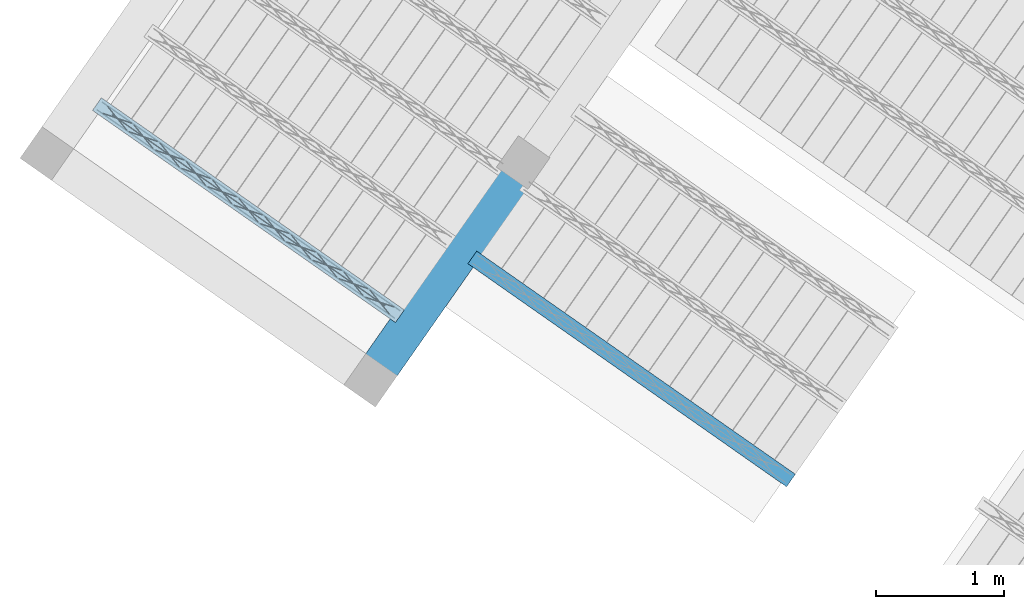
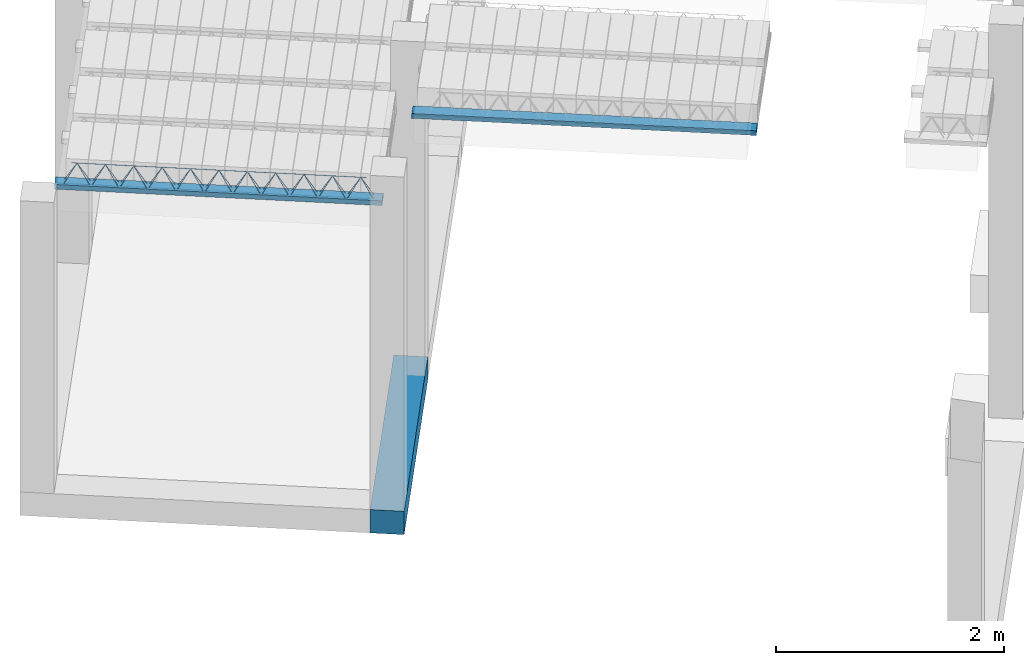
# One storey, part 3 of 80: 3 beams.
"""IFC2X3 building model written with IfcOpenShell, lengths in metres."""

from ifc_helpers import new_model, entity, si_unit, converted_unit, derived_unit, direction, frame, frame_2d, origin, origin_2d_with_axis, place, context, subcontext, project, spatial, rectangle, circle, extrude, material, type_object, element, save


model = new_model("IFC2X3")

# Units and contexts
model_context = context("Model", 3, precision=1e-05, world=origin(), true_north=direction((6.123031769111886e-17, 1.0)))
body_context = subcontext(model_context, "Body", "Model", "MODEL_VIEW")
ifc_project = project(units=[si_unit("LENGTHUNIT", "METRE"), si_unit("AREAUNIT", "SQUARE_METRE"), si_unit("VOLUMEUNIT", "CUBIC_METRE"), converted_unit("PLANEANGLEUNIT", "DEGREE", entity("IfcPlaneAngleMeasure", 0.017453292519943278), si_unit("PLANEANGLEUNIT", "RADIAN"), dimensions=[0, 0, 0, 0, 0, 0, 0]), si_unit("MASSUNIT", "GRAM", prefix="KILO"), derived_unit("MASSDENSITYUNIT", [(si_unit("MASSUNIT", "GRAM", prefix="KILO"), 1), (si_unit("LENGTHUNIT", "METRE"), -3)]), derived_unit("IONCONCENTRATIONUNIT", [(si_unit("MASSUNIT", "GRAM", prefix="KILO"), 1), (si_unit("LENGTHUNIT", "METRE"), -3)]), derived_unit("MOMENTOFINERTIAUNIT", [(si_unit("LENGTHUNIT", "METRE"), 4)]), si_unit("TIMEUNIT", "SECOND"), si_unit("FREQUENCYUNIT", "HERTZ"), si_unit("THERMODYNAMICTEMPERATUREUNIT", "DEGREE_CELSIUS"), derived_unit("THERMALTRANSMITTANCEUNIT", [(si_unit("MASSUNIT", "GRAM", prefix="KILO"), 1), (si_unit("THERMODYNAMICTEMPERATUREUNIT", "KELVIN"), -1), (si_unit("TIMEUNIT", "SECOND"), -3)]), derived_unit("THERMALCONDUCTANCEUNIT", [(si_unit("MASSUNIT", "GRAM", prefix="KILO"), 1), (si_unit("THERMODYNAMICTEMPERATUREUNIT", "KELVIN"), -1), (si_unit("TIMEUNIT", "SECOND"), -3), (si_unit("LENGTHUNIT", "METRE"), 1)]), derived_unit("VOLUMETRICFLOWRATEUNIT", [(si_unit("LENGTHUNIT", "METRE", prefix="DECI"), 3), (si_unit("TIMEUNIT", "SECOND"), -1)]), derived_unit("MASSFLOWRATEUNIT", [(si_unit("MASSUNIT", "GRAM", prefix="KILO"), 1), (si_unit("TIMEUNIT", "SECOND"), -1)]), derived_unit("ROTATIONALFREQUENCYUNIT", [(si_unit("TIMEUNIT", "SECOND"), -1)]), si_unit("ELECTRICCURRENTUNIT", "AMPERE"), si_unit("ELECTRICVOLTAGEUNIT", "VOLT"), si_unit("POWERUNIT", "WATT"), si_unit("FORCEUNIT", "NEWTON", prefix="KILO"), si_unit("ILLUMINANCEUNIT", "LUX"), si_unit("LUMINOUSFLUXUNIT", "LUMEN"), si_unit("LUMINOUSINTENSITYUNIT", "CANDELA"), si_unit("ENERGYUNIT", "JOULE"), derived_unit("USERDEFINED", [(si_unit("MASSUNIT", "GRAM", prefix="KILO"), -1), (si_unit("LENGTHUNIT", "METRE"), -2), (si_unit("TIMEUNIT", "SECOND"), 3), (si_unit("LUMINOUSFLUXUNIT", "LUMEN"), 1)]), derived_unit("USERDEFINED", [(si_unit("MASSUNIT", "GRAM", prefix="KILO"), 1), (si_unit("TIMEUNIT", "SECOND"), -3), (si_unit("LENGTHUNIT", "METRE"), 3), (si_unit("ELECTRICCURRENTUNIT", "AMPERE"), -2)]), derived_unit("SOUNDPOWERUNIT", [(si_unit("MASSUNIT", "GRAM", prefix="KILO"), 1), (si_unit("TIMEUNIT", "SECOND"), -3), (si_unit("LENGTHUNIT", "METRE"), 2)]), derived_unit("SOUNDPRESSUREUNIT", [(si_unit("MASSUNIT", "GRAM", prefix="KILO"), 1), (si_unit("LENGTHUNIT", "METRE"), -1), (si_unit("TIMEUNIT", "SECOND"), -2)]), derived_unit("LINEARVELOCITYUNIT", [(si_unit("LENGTHUNIT", "METRE"), 1), (si_unit("TIMEUNIT", "SECOND"), -1)]), si_unit("PRESSUREUNIT", "PASCAL"), derived_unit("USERDEFINED", [(si_unit("MASSUNIT", "GRAM", prefix="KILO"), 1), (si_unit("LENGTHUNIT", "METRE"), -2), (si_unit("TIMEUNIT", "SECOND"), -2)]), derived_unit("LINEARFORCEUNIT", [(si_unit("MASSUNIT", "GRAM", prefix="KILO"), 1), (si_unit("TIMEUNIT", "SECOND"), -2)]), derived_unit("PLANARFORCEUNIT", [(si_unit("MASSUNIT", "GRAM", prefix="KILO"), 1), (si_unit("LENGTHUNIT", "METRE"), -1), (si_unit("TIMEUNIT", "SECOND"), -2)]), derived_unit("SPECIFICHEATCAPACITYUNIT", [(si_unit("THERMODYNAMICTEMPERATUREUNIT", "KELVIN"), -1), (si_unit("LENGTHUNIT", "METRE"), 2), (si_unit("TIMEUNIT", "SECOND"), -2)]), derived_unit("HEATFLUXDENSITYUNIT", [(si_unit("MASSUNIT", "GRAM", prefix="KILO"), 1), (si_unit("TIMEUNIT", "SECOND"), -3)]), derived_unit("HEATINGVALUEUNIT", [(si_unit("LENGTHUNIT", "METRE"), 2), (si_unit("TIMEUNIT", "SECOND"), -2)]), derived_unit("VAPORPERMEABILITYUNIT", [(si_unit("LENGTHUNIT", "METRE"), -1), (si_unit("TIMEUNIT", "SECOND"), 1)]), derived_unit("DYNAMICVISCOSITYUNIT", [(si_unit("MASSUNIT", "GRAM", prefix="KILO"), 1), (si_unit("TIMEUNIT", "SECOND"), -1), (si_unit("LENGTHUNIT", "METRE"), -1)]), derived_unit("THERMALEXPANSIONCOEFFICIENTUNIT", [(si_unit("THERMODYNAMICTEMPERATUREUNIT", "KELVIN"), -1)]), derived_unit("MODULUSOFELASTICITYUNIT", [(si_unit("MASSUNIT", "GRAM", prefix="KILO"), 1), (si_unit("LENGTHUNIT", "METRE"), -1), (si_unit("TIMEUNIT", "SECOND"), -2)]), derived_unit("ISOTHERMALMOISTURECAPACITYUNIT", [(si_unit("MASSUNIT", "GRAM", prefix="KILO"), -1), (si_unit("LENGTHUNIT", "METRE"), 3)]), derived_unit("MOISTUREDIFFUSIVITYUNIT", [(si_unit("TIMEUNIT", "SECOND"), -1), (si_unit("LENGTHUNIT", "METRE"), 2)]), derived_unit("MASSPERLENGTHUNIT", [(si_unit("MASSUNIT", "GRAM", prefix="KILO"), 1), (si_unit("LENGTHUNIT", "METRE"), -1)]), derived_unit("THERMALRESISTANCEUNIT", [(si_unit("MASSUNIT", "GRAM", prefix="KILO"), -1), (si_unit("TIMEUNIT", "SECOND"), 3), (si_unit("THERMODYNAMICTEMPERATUREUNIT", "KELVIN"), 1)]), derived_unit("ACCELERATIONUNIT", [(si_unit("LENGTHUNIT", "METRE"), 1), (si_unit("TIMEUNIT", "SECOND"), -2)]), derived_unit("ANGULARVELOCITYUNIT", [(si_unit("TIMEUNIT", "SECOND"), -1), (si_unit("PLANEANGLEUNIT", "RADIAN"), 1)]), derived_unit("LINEARSTIFFNESSUNIT", [(si_unit("MASSUNIT", "GRAM", prefix="KILO"), 1), (si_unit("TIMEUNIT", "SECOND"), -2)]), derived_unit("WARPINGCONSTANTUNIT", [(si_unit("LENGTHUNIT", "METRE"), 6)]), derived_unit("LINEARMOMENTUNIT", [(si_unit("MASSUNIT", "GRAM", prefix="KILO"), 1), (si_unit("LENGTHUNIT", "METRE"), 1), (si_unit("TIMEUNIT", "SECOND"), -2)]), derived_unit("TORQUEUNIT", [(si_unit("MASSUNIT", "GRAM", prefix="KILO"), 1), (si_unit("LENGTHUNIT", "METRE"), 2), (si_unit("TIMEUNIT", "SECOND"), -2)])], contexts=[model_context])

# Site, building, storey
site_placement = place(None, origin())
site = spatial("IfcSite", under=ifc_project, at=site_placement, Name="Default", CompositionType="ELEMENT")
building_placement = place(site_placement, origin())
building = spatial("IfcBuilding", under=site, at=building_placement, CompositionType="ELEMENT")
storey_placement = place(building_placement, frame((0.0, 0.0, 95.94)))
storey = spatial("IfcBuildingStorey", under=building, at=storey_placement, Name="PB", CompositionType="ELEMENT", Elevation=95.94)

# Beams
beam_type = type_object("IfcBeamType", Name="Vigueta 1 (Paño 2) (Mf = 10.75)", PredefinedType="JOIST")
beam_1_placement = place(storey_placement, origin())
element("IfcBeam", 1, at=beam_1_placement, inside=storey, type_object=beam_type, Name="Vigueta 1 (Paño 2) (Mf = 10.75)", ObjectType="Mf = 10.75", context=body_context, shape_type="SweptSolid", body=[
    extrude(rectangle(XDim=2.8847793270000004, YDim=0.12000000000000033, at=frame_2d((0.0, -6.938893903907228e-17), x_axis=(1.0, 0.0))), frame((0.0012735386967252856, 1.891653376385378, 2.82), z_axis=(0.0, 0.0, 1.0), x_axis=(0.8191520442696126, -0.5735764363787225, 0.0)), (0.0, 0.0, 1.0), 0.04999999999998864),
    extrude(circle(Radius=0.0025, at=origin_2d_with_axis()), frame((-1.1812520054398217, 2.675718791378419, 2.8449999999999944), z_axis=(0.8191520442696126, -0.5735764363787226, 0.0), x_axis=(-0.5735764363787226, -0.8191520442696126, 0.0)), (0.0, 0.0, 1.0), 2.8367793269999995),
    extrude(circle(Radius=0.0025, at=origin_2d_with_axis()), frame((1.0661711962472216, 1.1460040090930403, 3.069999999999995), z_axis=(-0.8191520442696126, 0.5735764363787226, 0.0), x_axis=(-0.5735764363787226, -0.8191520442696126, 0.0)), (0.0, 0.0, 1.0), 2.6),
    extrude(circle(Radius=0.0025, at=origin_2d_with_axis()), frame((1.1069588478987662, 1.0734963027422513, 2.8449999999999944), z_axis=(-0.3145304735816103, 0.389334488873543, 0.8657304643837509), x_axis=(-0.7778747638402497, -0.6284193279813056, 0.0)), (0.0, 0.0, 1.0), 0.2598961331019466),
    extrude(circle(Radius=0.0025, at=origin_2d_with_axis()), frame((0.9021708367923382, 1.216890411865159, 2.8449999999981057), z_axis=(0.47343050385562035, -0.1624017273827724, 0.8657304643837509), x_axis=(-0.3244721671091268, -0.9458952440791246, 0.0)), (0.0, 0.0, 1.0), 0.25989613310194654),
    extrude(circle(Radius=0.0025, at=origin_2d_with_axis()), frame((0.9021708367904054, 1.2168904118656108, 2.8449999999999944), z_axis=(-0.3145304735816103, 0.389334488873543, 0.8657304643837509), x_axis=(-0.7778747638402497, -0.6284193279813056, 0.0)), (0.0, 0.0, 1.0), 0.2598961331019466),
    extrude(circle(Radius=0.0025, at=origin_2d_with_axis()), frame((0.697382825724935, 1.3602845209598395, 2.8449999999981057), z_axis=(0.47343050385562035, -0.1624017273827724, 0.8657304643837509), x_axis=(-0.3244721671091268, -0.9458952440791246, 0.0)), (0.0, 0.0, 1.0), 0.25989613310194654),
    extrude(circle(Radius=0.0025, at=origin_2d_with_axis()), frame((0.6973828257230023, 1.3602845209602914, 2.8449999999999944), z_axis=(-0.3145304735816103, 0.389334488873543, 0.8657304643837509), x_axis=(-0.7778747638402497, -0.6284193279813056, 0.0)), (0.0, 0.0, 1.0), 0.2598961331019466),
    extrude(circle(Radius=0.0025, at=origin_2d_with_axis()), frame((0.4925948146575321, 1.5036786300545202, 2.8449999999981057), z_axis=(0.47343050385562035, -0.1624017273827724, 0.8657304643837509), x_axis=(-0.3244721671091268, -0.9458952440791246, 0.0)), (0.0, 0.0, 1.0), 0.25989613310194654),
    extrude(circle(Radius=0.0025, at=origin_2d_with_axis()), frame((0.4925948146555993, 1.5036786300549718, 2.8449999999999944), z_axis=(-0.3145304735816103, 0.389334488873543, 0.8657304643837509), x_axis=(-0.7778747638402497, -0.6284193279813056, 0.0)), (0.0, 0.0, 1.0), 0.2598961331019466),
    extrude(circle(Radius=0.0025, at=origin_2d_with_axis()), frame((0.28780680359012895, 1.6470727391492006, 2.8449999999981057), z_axis=(0.47343050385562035, -0.1624017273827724, 0.8657304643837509), x_axis=(-0.3244721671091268, -0.9458952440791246, 0.0)), (0.0, 0.0, 1.0), 0.25989613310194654),
    extrude(circle(Radius=0.0025, at=origin_2d_with_axis()), frame((0.2878068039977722, 1.6470727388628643, 2.8449999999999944), z_axis=(-0.3145304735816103, 0.389334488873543, 0.8657304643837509), x_axis=(-0.7778747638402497, -0.6284193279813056, 0.0)), (0.0, 0.0, 1.0), 0.2598961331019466),
    extrude(circle(Radius=0.0025, at=origin_2d_with_axis()), frame((0.08301879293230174, 1.790466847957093, 2.8449999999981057), z_axis=(0.47343050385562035, -0.1624017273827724, 0.8657304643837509), x_axis=(-0.3244721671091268, -0.9458952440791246, 0.0)), (0.0, 0.0, 1.0), 0.25989613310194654),
    extrude(circle(Radius=0.0025, at=origin_2d_with_axis()), frame((0.08301879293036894, 1.790466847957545, 2.8449999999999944), z_axis=(-0.3145304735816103, 0.389334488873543, 0.8657304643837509), x_axis=(-0.7778747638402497, -0.6284193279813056, 0.0)), (0.0, 0.0, 1.0), 0.2598961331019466),
    extrude(circle(Radius=0.0025, at=origin_2d_with_axis()), frame((-0.12176921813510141, 1.9338609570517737, 2.8449999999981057), z_axis=(0.47343050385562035, -0.1624017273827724, 0.8657304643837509), x_axis=(-0.3244721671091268, -0.9458952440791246, 0.0)), (0.0, 0.0, 1.0), 0.25989613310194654),
    extrude(circle(Radius=0.0025, at=origin_2d_with_axis()), frame((-0.1217692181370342, 1.9338609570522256, 2.8449999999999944), z_axis=(-0.3145304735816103, 0.389334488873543, 0.8657304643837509), x_axis=(-0.7778747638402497, -0.6284193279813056, 0.0)), (0.0, 0.0, 1.0), 0.2598961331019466),
    extrude(circle(Radius=0.0025, at=origin_2d_with_axis()), frame((-0.32655722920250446, 2.0772550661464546, 2.8449999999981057), z_axis=(0.47343050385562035, -0.1624017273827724, 0.8657304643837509), x_axis=(-0.3244721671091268, -0.9458952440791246, 0.0)), (0.0, 0.0, 1.0), 0.25989613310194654),
    extrude(circle(Radius=0.0025, at=origin_2d_with_axis()), frame((-0.32655722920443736, 2.0772550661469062, 2.8449999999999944), z_axis=(-0.3145304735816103, 0.389334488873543, 0.8657304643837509), x_axis=(-0.7778747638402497, -0.6284193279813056, 0.0)), (0.0, 0.0, 1.0), 0.2598961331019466),
    extrude(circle(Radius=0.0025, at=origin_2d_with_axis()), frame((-0.5313452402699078, 2.2206491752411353, 2.8449999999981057), z_axis=(0.47343050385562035, -0.1624017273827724, 0.8657304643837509), x_axis=(-0.3244721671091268, -0.9458952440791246, 0.0)), (0.0, 0.0, 1.0), 0.25989613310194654),
    extrude(circle(Radius=0.0025, at=origin_2d_with_axis()), frame((-0.5313452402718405, 2.220649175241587, 2.8449999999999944), z_axis=(-0.3145304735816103, 0.389334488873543, 0.8657304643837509), x_axis=(-0.7778747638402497, -0.6284193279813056, 0.0)), (0.0, 0.0, 1.0), 0.2598961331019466),
    extrude(circle(Radius=0.0025, at=origin_2d_with_axis()), frame((-0.736133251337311, 2.364043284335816, 2.8449999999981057), z_axis=(0.47343050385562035, -0.1624017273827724, 0.8657304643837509), x_axis=(-0.3244721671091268, -0.9458952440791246, 0.0)), (0.0, 0.0, 1.0), 0.25989613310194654),
    extrude(circle(Radius=0.0025, at=origin_2d_with_axis()), frame((-0.7361332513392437, 2.3640432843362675, 2.8449999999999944), z_axis=(-0.3145304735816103, 0.389334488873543, 0.8657304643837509), x_axis=(-0.7778747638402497, -0.6284193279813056, 0.0)), (0.0, 0.0, 1.0), 0.2598961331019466),
    extrude(circle(Radius=0.0025, at=origin_2d_with_axis()), frame((-0.9409212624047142, 2.507437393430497, 2.8449999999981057), z_axis=(0.47343050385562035, -0.1624017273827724, 0.8657304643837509), x_axis=(-0.3244721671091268, -0.9458952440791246, 0.0)), (0.0, 0.0, 1.0), 0.25989613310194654),
    extrude(circle(Radius=0.0025, at=origin_2d_with_axis()), frame((-0.9409212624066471, 2.507437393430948, 2.8449999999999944), z_axis=(-0.3145304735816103, 0.389334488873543, 0.8657304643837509), x_axis=(-0.7778747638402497, -0.6284193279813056, 0.0)), (0.0, 0.0, 1.0), 0.2598961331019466),
    extrude(circle(Radius=0.0025, at=origin_2d_with_axis()), frame((-1.1457092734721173, 2.650831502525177, 2.8449999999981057), z_axis=(0.47343050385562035, -0.1624017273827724, 0.8657304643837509), x_axis=(-0.3244721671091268, -0.9458952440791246, 0.0)), (0.0, 0.0, 1.0), 0.25989613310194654),
    extrude(circle(Radius=0.0025, at=origin_2d_with_axis()), frame((-1.1399545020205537, 2.734697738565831, 2.8449999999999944), z_axis=(0.8191520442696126, -0.5735764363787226, 0.0), x_axis=(-0.5735764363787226, -0.8191520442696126, 0.0)), (0.0, 0.0, 1.0), 2.8367793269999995),
    extrude(circle(Radius=0.0025, at=origin_2d_with_axis()), frame((1.1482563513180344, 1.1324752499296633, 2.8449999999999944), z_axis=(-0.47343050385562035, 0.1624017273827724, 0.8657304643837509), x_axis=(-0.3244721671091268, -0.9458952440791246, 0.0)), (0.0, 0.0, 1.0), 0.25989613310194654),
    extrude(circle(Radius=0.0025, at=origin_2d_with_axis()), frame((0.9434683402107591, 1.275869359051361, 2.8449999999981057), z_axis=(0.3145304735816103, -0.389334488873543, 0.8657304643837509), x_axis=(-0.7778747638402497, -0.6284193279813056, 0.0)), (0.0, 0.0, 1.0), 0.2598961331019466),
    extrude(circle(Radius=0.0025, at=origin_2d_with_axis()), frame((0.9434683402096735, 1.2758693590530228, 2.8449999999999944), z_axis=(-0.47343050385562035, 0.1624017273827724, 0.8657304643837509), x_axis=(-0.3244721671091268, -0.9458952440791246, 0.0)), (0.0, 0.0, 1.0), 0.25989613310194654),
    extrude(circle(Radius=0.0025, at=origin_2d_with_axis()), frame((0.7386803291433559, 1.4192634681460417, 2.8449999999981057), z_axis=(0.3145304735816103, -0.389334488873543, 0.8657304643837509), x_axis=(-0.7778747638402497, -0.6284193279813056, 0.0)), (0.0, 0.0, 1.0), 0.2598961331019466),
    extrude(circle(Radius=0.0025, at=origin_2d_with_axis()), frame((0.7386803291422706, 1.4192634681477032, 2.8449999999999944), z_axis=(-0.47343050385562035, 0.1624017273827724, 0.8657304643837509), x_axis=(-0.3244721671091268, -0.9458952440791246, 0.0)), (0.0, 0.0, 1.0), 0.25989613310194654),
    extrude(circle(Radius=0.0025, at=origin_2d_with_axis()), frame((0.5338923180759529, 1.5626575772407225, 2.8449999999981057), z_axis=(0.3145304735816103, -0.389334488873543, 0.8657304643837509), x_axis=(-0.7778747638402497, -0.6284193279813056, 0.0)), (0.0, 0.0, 1.0), 0.2598961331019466),
    extrude(circle(Radius=0.0025, at=origin_2d_with_axis()), frame((0.5338923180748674, 1.562657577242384, 2.8449999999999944), z_axis=(-0.47343050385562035, 0.1624017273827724, 0.8657304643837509), x_axis=(-0.3244721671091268, -0.9458952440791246, 0.0)), (0.0, 0.0, 1.0), 0.25989613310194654),
    extrude(circle(Radius=0.0025, at=origin_2d_with_axis()), frame((0.3291043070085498, 1.7060516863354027, 2.8449999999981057), z_axis=(0.3145304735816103, -0.389334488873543, 0.8657304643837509), x_axis=(-0.7778747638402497, -0.6284193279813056, 0.0)), (0.0, 0.0, 1.0), 0.2598961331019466),
    extrude(circle(Radius=0.0025, at=origin_2d_with_axis()), frame((0.3291043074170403, 1.7060516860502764, 2.8449999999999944), z_axis=(-0.47343050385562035, 0.1624017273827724, 0.8657304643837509), x_axis=(-0.3244721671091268, -0.9458952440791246, 0.0)), (0.0, 0.0, 1.0), 0.25989613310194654),
    extrude(circle(Radius=0.0025, at=origin_2d_with_axis()), frame((0.12431629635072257, 1.8494457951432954, 2.8449999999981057), z_axis=(0.3145304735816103, -0.389334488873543, 0.8657304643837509), x_axis=(-0.7778747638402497, -0.6284193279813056, 0.0)), (0.0, 0.0, 1.0), 0.2598961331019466),
    extrude(circle(Radius=0.0025, at=origin_2d_with_axis()), frame((0.124316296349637, 1.8494457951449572, 2.8449999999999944), z_axis=(-0.47343050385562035, 0.1624017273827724, 0.8657304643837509), x_axis=(-0.3244721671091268, -0.9458952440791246, 0.0)), (0.0, 0.0, 1.0), 0.25989613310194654),
    extrude(circle(Radius=0.0025, at=origin_2d_with_axis()), frame((-0.08047171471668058, 1.9928399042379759, 2.8449999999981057), z_axis=(0.3145304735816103, -0.389334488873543, 0.8657304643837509), x_axis=(-0.7778747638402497, -0.6284193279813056, 0.0)), (0.0, 0.0, 1.0), 0.2598961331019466),
    extrude(circle(Radius=0.0025, at=origin_2d_with_axis()), frame((-0.08047171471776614, 1.9928399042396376, 2.8449999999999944), z_axis=(-0.47343050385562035, 0.1624017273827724, 0.8657304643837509), x_axis=(-0.3244721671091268, -0.9458952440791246, 0.0)), (0.0, 0.0, 1.0), 0.25989613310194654),
    extrude(circle(Radius=0.0025, at=origin_2d_with_axis()), frame((-0.2852597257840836, 2.1362340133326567, 2.8449999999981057), z_axis=(0.3145304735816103, -0.389334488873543, 0.8657304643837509), x_axis=(-0.7778747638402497, -0.6284193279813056, 0.0)), (0.0, 0.0, 1.0), 0.2598961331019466),
    extrude(circle(Radius=0.0025, at=origin_2d_with_axis()), frame((-0.2852597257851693, 2.1362340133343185, 2.8449999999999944), z_axis=(-0.47343050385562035, 0.1624017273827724, 0.8657304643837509), x_axis=(-0.3244721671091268, -0.9458952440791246, 0.0)), (0.0, 0.0, 1.0), 0.25989613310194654),
    extrude(circle(Radius=0.0025, at=origin_2d_with_axis()), frame((-0.490047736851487, 2.2796281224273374, 2.8449999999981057), z_axis=(0.3145304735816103, -0.389334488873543, 0.8657304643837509), x_axis=(-0.7778747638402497, -0.6284193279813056, 0.0)), (0.0, 0.0, 1.0), 0.2598961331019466),
    extrude(circle(Radius=0.0025, at=origin_2d_with_axis()), frame((-0.4900477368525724, 2.279628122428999, 2.8449999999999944), z_axis=(-0.47343050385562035, 0.1624017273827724, 0.8657304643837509), x_axis=(-0.3244721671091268, -0.9458952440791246, 0.0)), (0.0, 0.0, 1.0), 0.25989613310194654),
    extrude(circle(Radius=0.0025, at=origin_2d_with_axis()), frame((-0.6948357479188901, 2.423022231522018, 2.8449999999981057), z_axis=(0.3145304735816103, -0.389334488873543, 0.8657304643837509), x_axis=(-0.7778747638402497, -0.6284193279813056, 0.0)), (0.0, 0.0, 1.0), 0.2598961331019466),
    extrude(circle(Radius=0.0025, at=origin_2d_with_axis()), frame((-0.6948357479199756, 2.4230222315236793, 2.8449999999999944), z_axis=(-0.47343050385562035, 0.1624017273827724, 0.8657304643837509), x_axis=(-0.3244721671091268, -0.9458952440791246, 0.0)), (0.0, 0.0, 1.0), 0.25989613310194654),
    extrude(circle(Radius=0.0025, at=origin_2d_with_axis()), frame((-0.8996237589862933, 2.5664163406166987, 2.8449999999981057), z_axis=(0.3145304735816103, -0.389334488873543, 0.8657304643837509), x_axis=(-0.7778747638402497, -0.6284193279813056, 0.0)), (0.0, 0.0, 1.0), 0.2598961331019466),
    extrude(circle(Radius=0.0025, at=origin_2d_with_axis()), frame((-0.899623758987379, 2.5664163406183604, 2.8449999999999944), z_axis=(-0.47343050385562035, 0.1624017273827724, 0.8657304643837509), x_axis=(-0.3244721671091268, -0.9458952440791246, 0.0)), (0.0, 0.0, 1.0), 0.25989613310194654),
    extrude(circle(Radius=0.0025, at=origin_2d_with_axis()), frame((-1.1044117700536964, 2.709810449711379, 2.8449999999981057), z_axis=(0.3145304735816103, -0.389334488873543, 0.8657304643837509), x_axis=(-0.7778747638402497, -0.6284193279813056, 0.0)), (0.0, 0.0, 1.0), 0.2598961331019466),
])
ifc_material = material(Name="Hormigón armado")
beam_2_placement = place(storey_placement, origin())
element("IfcBeam", 2, at=beam_2_placement, inside=storey, material=ifc_material, Name="Viga 8 (30x25)", ObjectType="30x25", context=body_context, shape_type="SweptSolid", body=[
    extrude(rectangle(XDim=0.2500000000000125, YDim=0.30000000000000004, at=origin_2d_with_axis()), frame((0.8688401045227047, 0.44159252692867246, -0.12500000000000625), z_axis=(0.5735764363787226, 0.8191520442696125, 0.0), x_axis=(0.0, 0.0, 1.0)), (0.0, 0.0, 1.0), 2.3741724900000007),
])
beam_3_placement = place(storey_placement, origin())
element("IfcBeam", 3, at=beam_3_placement, inside=storey, material=ifc_material, Name="238599", context=body_context, shape_type="SweptSolid", body=[
    extrude(rectangle(XDim=0.04999999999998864, YDim=0.12000000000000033, at=origin_2d_with_axis()), frame((1.7481438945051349, 1.5230237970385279, 3.3049999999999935), z_axis=(0.819152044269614, -0.5735764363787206, 0.0), x_axis=(0.0, 0.0, -1.0)), (0.0, 0.0, 1.0), 3.035184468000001),
])

save(model, "model.ifc")
